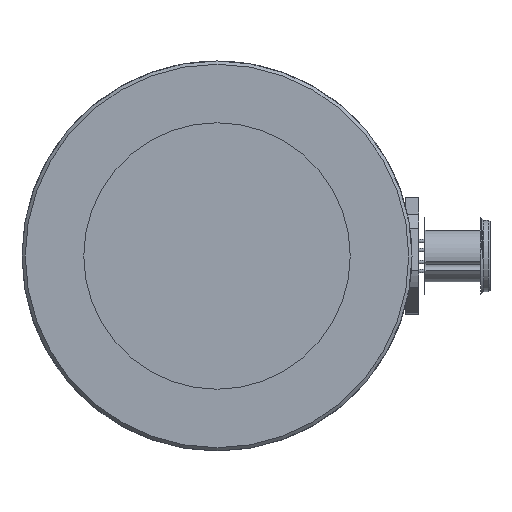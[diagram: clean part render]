
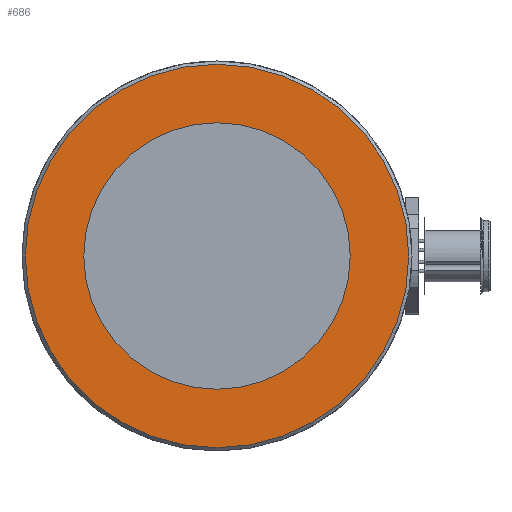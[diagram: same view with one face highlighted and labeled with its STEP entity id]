
A CAD part, left-side view. The second image highlights one B-rep face of the part: STEP entity #686.
In plain terms, the highlighted planar face has unit normal (-1, 0, 0).
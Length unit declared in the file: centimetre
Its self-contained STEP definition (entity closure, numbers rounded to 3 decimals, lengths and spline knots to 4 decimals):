
#422=CARTESIAN_POINT('',(-2.4,0.,-2.95));
#423=VERTEX_POINT('',#422);
#449=CARTESIAN_POINT('',(-2.4,0.,0.));
#450=DIRECTION('',(1.,0.,-0.));
#451=DIRECTION('',(0.,0.,1.));
#452=AXIS2_PLACEMENT_3D('',#449,#450,#451);
#453=CIRCLE('',#452,2.95);
#454=EDGE_CURVE('',#423,#423,#453,.T.);
#658=CARTESIAN_POINT('',(-2.4,0.,0.));
#659=DIRECTION('',(1.,0.,0.));
#660=DIRECTION('',(0.,0.,-1.));
#661=AXIS2_PLACEMENT_3D('',#658,#659,#660);
#662=PLANE('',#661);
#663=CARTESIAN_POINT('',(-2.4,0.,-2.05));
#664=VERTEX_POINT('',#663);
#665=CARTESIAN_POINT('',(-2.4,0.,2.05));
#666=VERTEX_POINT('',#665);
#667=CARTESIAN_POINT('',(-2.4,0.,0.));
#668=DIRECTION('',(1.,0.,0.));
#669=DIRECTION('',(0.,0.,-1.));
#670=AXIS2_PLACEMENT_3D('',#667,#668,#669);
#671=CIRCLE('',#670,2.05);
#672=EDGE_CURVE('',#664,#666,#671,.T.);
#673=ORIENTED_EDGE('',*,*,#672,.T.);
#674=CARTESIAN_POINT('',(-2.4,0.,0.));
#675=DIRECTION('',(1.,0.,0.));
#676=DIRECTION('',(0.,0.,-1.));
#677=AXIS2_PLACEMENT_3D('',#674,#675,#676);
#678=CIRCLE('',#677,2.05);
#679=EDGE_CURVE('',#666,#664,#678,.T.);
#680=ORIENTED_EDGE('',*,*,#679,.T.);
#681=EDGE_LOOP('',(#673,#680));
#682=FACE_BOUND('',#681,.T.);
#683=ORIENTED_EDGE('',*,*,#454,.F.);
#684=EDGE_LOOP('',(#683));
#685=FACE_BOUND('',#684,.T.);
#686=ADVANCED_FACE('',(#682,#685),#662,.F.);
